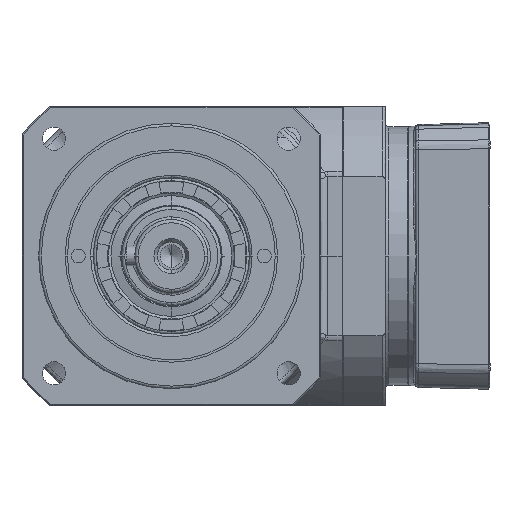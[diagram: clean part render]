
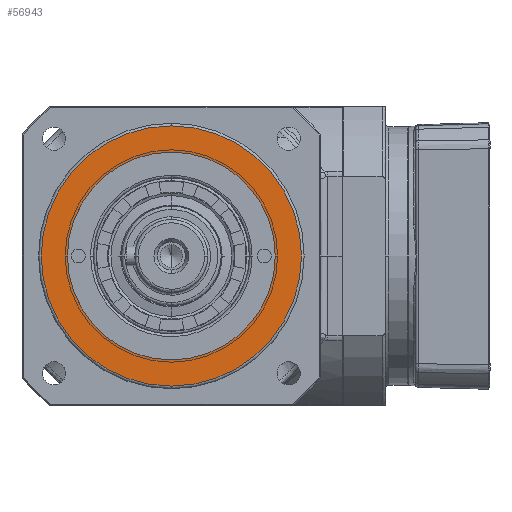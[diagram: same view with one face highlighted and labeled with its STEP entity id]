
A CAD part, left-side view. The second image highlights one B-rep face of the part: STEP entity #56943.
In plain terms, the highlighted planar face has unit normal (-1, 0, 0).
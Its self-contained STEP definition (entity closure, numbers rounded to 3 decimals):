
#10675 = AXIS2_PLACEMENT_3D ( 'NONE', #51077, #18965, #32111 ) ;
#12804 = FACE_OUTER_BOUND ( 'NONE', #42291, .T. ) ;
#14651 = EDGE_LOOP ( 'NONE', ( #23051, #70250 ) ) ;
#18093 = DIRECTION ( 'NONE',  ( 0., -1., 0. ) ) ;
#18965 = DIRECTION ( 'NONE',  ( 1., 0., 0. ) ) ;
#19376 = FACE_BOUND ( 'NONE', #14651, .T. ) ;
#22655 = VERTEX_POINT ( 'NONE', #66548 ) ;
#23051 = ORIENTED_EDGE ( 'NONE', *, *, #27312, .F. ) ;
#25258 = ORIENTED_EDGE ( 'NONE', *, *, #64216, .F. ) ;
#25532 = PLANE ( 'NONE',  #10675 ) ;
#26959 = DIRECTION ( 'NONE',  ( 0., 0., 1. ) ) ;
#27312 = EDGE_CURVE ( 'NONE', #32378, #31236, #78516, .T. ) ;
#28015 = AXIS2_PLACEMENT_3D ( 'NONE', #30075, #53687, #55205 ) ;
#29239 = CARTESIAN_POINT ( 'NONE',  ( -80.133, -24.493, 90. ) ) ;
#29429 = ORIENTED_EDGE ( 'NONE', *, *, #38633, .F. ) ;
#30075 = CARTESIAN_POINT ( 'NONE',  ( -80.133, 6.807, 90. ) ) ;
#30452 = AXIS2_PLACEMENT_3D ( 'NONE', #37829, #67904, #18093 ) ;
#31236 = VERTEX_POINT ( 'NONE', #58687 ) ;
#32111 = DIRECTION ( 'NONE',  ( 0., 1., 0. ) ) ;
#32144 = DIRECTION ( 'NONE',  ( -1., 0., 0. ) ) ;
#32378 = VERTEX_POINT ( 'NONE', #29239 ) ;
#37829 = CARTESIAN_POINT ( 'NONE',  ( -80.133, 6.807, 90. ) ) ;
#38633 = EDGE_CURVE ( 'NONE', #22655, #54960, #49471, .T. ) ;
#41190 = CIRCLE ( 'NONE', #28015, 39.2 ) ;
#42291 = EDGE_LOOP ( 'NONE', ( #25258, #29429 ) ) ;
#44908 = CIRCLE ( 'NONE', #30452, 31.3 ) ;
#46856 = CARTESIAN_POINT ( 'NONE',  ( -80.133, 6.807, 129.2 ) ) ;
#49471 = CIRCLE ( 'NONE', #59937, 39.2 ) ;
#51077 = CARTESIAN_POINT ( 'NONE',  ( -80.133, -32.863, 50.33 ) ) ;
#51691 = CARTESIAN_POINT ( 'NONE',  ( -80.133, 6.807, 90. ) ) ;
#52972 = EDGE_CURVE ( 'NONE', #31236, #32378, #44908, .T. ) ;
#53687 = DIRECTION ( 'NONE',  ( 1., 0., 0. ) ) ;
#54960 = VERTEX_POINT ( 'NONE', #46856 ) ;
#55205 = DIRECTION ( 'NONE',  ( 0., 0., 1. ) ) ;
#56943 = ADVANCED_FACE ( 'NONE', ( #19376, #12804 ), #25532, .F. ) ;
#57490 = AXIS2_PLACEMENT_3D ( 'NONE', #65069, #32144, #77011 ) ;
#58687 = CARTESIAN_POINT ( 'NONE',  ( -80.133, 38.107, 90. ) ) ;
#59937 = AXIS2_PLACEMENT_3D ( 'NONE', #51691, #76800, #26959 ) ;
#64216 = EDGE_CURVE ( 'NONE', #54960, #22655, #41190, .T. ) ;
#65069 = CARTESIAN_POINT ( 'NONE',  ( -80.133, 6.807, 90. ) ) ;
#66548 = CARTESIAN_POINT ( 'NONE',  ( -80.133, 6.807, 50.8 ) ) ;
#67904 = DIRECTION ( 'NONE',  ( -1., 0., 0. ) ) ;
#70250 = ORIENTED_EDGE ( 'NONE', *, *, #52972, .F. ) ;
#76800 = DIRECTION ( 'NONE',  ( 1., 0., 0. ) ) ;
#77011 = DIRECTION ( 'NONE',  ( 0., -1., 0. ) ) ;
#78516 = CIRCLE ( 'NONE', #57490, 31.3 ) ;
